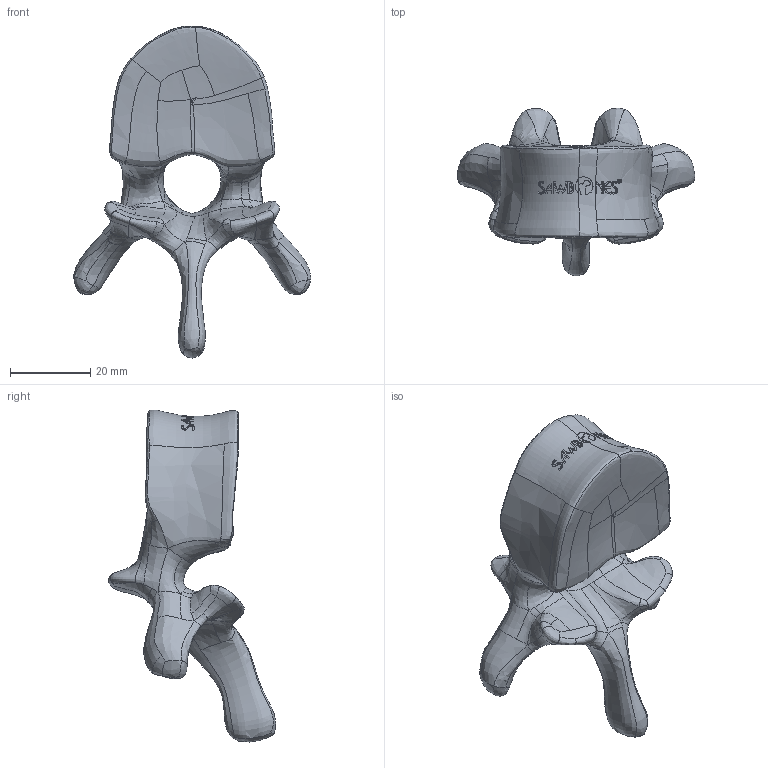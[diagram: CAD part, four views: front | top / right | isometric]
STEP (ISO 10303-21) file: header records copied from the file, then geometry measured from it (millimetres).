
FILE_DESCRIPTION (( 'STEP AP203' ), '1' );
FILE_NAME ('1379-60-10.STEP', '2026-07-28T19:26:46', ( '' ), ( '' ), 'SwSTEP 2.0', 'SolidWorks 2024', '' );
FILE_SCHEMA (( 'CONFIG_CONTROL_DESIGN' ));
Products named in the file (1): 1379-60-10
Bounding box: 59.15 x 41.75 x 82.7 mm (x, y, z)
Volume: 34225.2 mm3; surface area: 9694.7 mm2
Topology: 1 solids, 1 shells, 407 faces, 1064 edges, 673 vertices
Faces by surface type: bspline 406, plane 1
Entity records: 42116 total; most frequent: CARTESIAN_POINT 35440, ORIENTED_EDGE 2128, EDGE_CURVE 1064, B_SPLINE_CURVE_WITH_KNOTS 1064, VERTEX_POINT 673, EDGE_LOOP 423, FACE_OUTER_BOUND 407, ADVANCED_FACE 407
